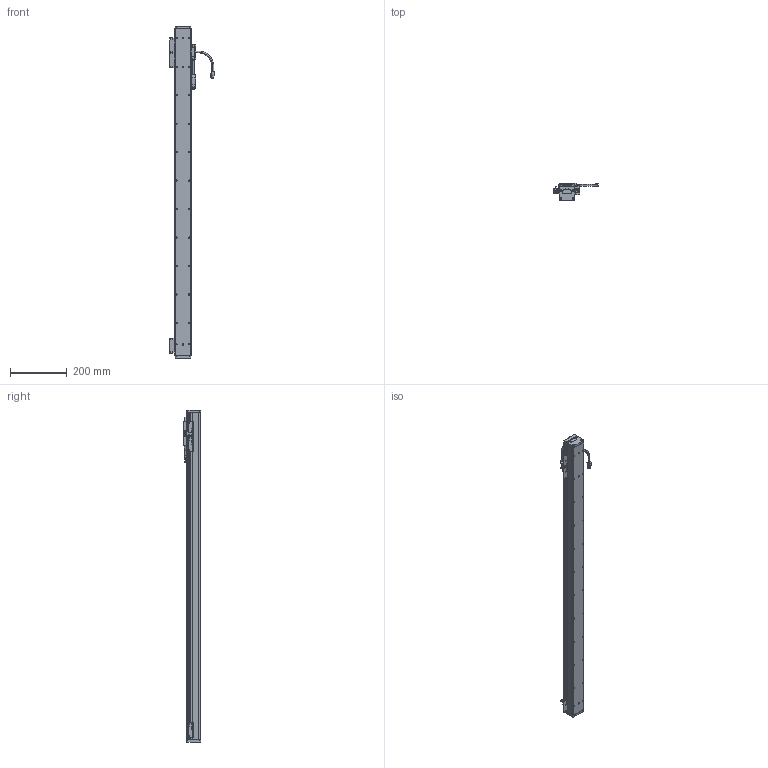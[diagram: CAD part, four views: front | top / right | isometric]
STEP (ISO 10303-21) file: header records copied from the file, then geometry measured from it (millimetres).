
FILE_DESCRIPTION(('Open CASCADE Model'),'2;1');
FILE_NAME('Open CASCADE Shape Model','2025-11-07T00:53:36',('Author'),( 'Open CASCADE'),'Open CASCADE STEP processor 7.6','Open CASCADE 7.6' ,'Unknown');
FILE_SCHEMA(('AUTOMOTIVE_DESIGN { 1 0 10303 214 1 1 1 1 }'));
Length unit declared in the file: millimetre
Products named in the file (25): Open CASCADE STEP translator 7.6 178; Open CASCADE STEP translator 7.6 178.1; Open CASCADE STEP translator 7.6 178.2; Open CASCADE STEP translator 7.6 178.3; Open CASCADE STEP translator 7.6 178.4; Open CASCADE STEP translator 7.6 178.5; Open CASCADE STEP translator 7.6 178.6; Open CASCADE STEP translator 7.6 178.7; Open CASCADE STEP translator 7.6 178.8; Open CASCADE STEP translator 7.6 178.9; Open CASCADE STEP translator 7.6 178.10; Open CASCADE STEP translator 7.6 178.11; Open CASCADE STEP translator 7.6 178.12; Open CASCADE STEP translator 7.6 178.13; Open CASCADE STEP translator 7.6 178.14; Open CASCADE STEP translator 7.6 178.14.1; Open CASCADE STEP translator 7.6 178.14.1.1; Open CASCADE STEP translator 7.6 178.14.1.2; Open CASCADE STEP translator 7.6 178.14.1.3; Open CASCADE STEP translator 7.6 178.14.1.4; Open CASCADE STEP translator 7.6 178.14.1.5; Open CASCADE STEP translator 7.6 178.15; Open CASCADE STEP translator 7.6 178.16; Open CASCADE STEP translator 7.6 178.17; Open CASCADE STEP translator 7.6 178.18
Assembly tree (24 placements, depth 4):
  Open CASCADE STEP translator 7.6 178
    Open CASCADE STEP translator 7.6 178.1
    Open CASCADE STEP translator 7.6 178.2
    Open CASCADE STEP translator 7.6 178.3
    Open CASCADE STEP translator 7.6 178.4
    Open CASCADE STEP translator 7.6 178.5
    Open CASCADE STEP translator 7.6 178.6
    Open CASCADE STEP translator 7.6 178.7
    Open CASCADE STEP translator 7.6 178.8
    Open CASCADE STEP translator 7.6 178.9
    Open CASCADE STEP translator 7.6 178.10
    Open CASCADE STEP translator 7.6 178.11
    Open CASCADE STEP translator 7.6 178.12
    Open CASCADE STEP translator 7.6 178.13
    Open CASCADE STEP translator 7.6 178.14
      Open CASCADE STEP translator 7.6 178.14.1
        Open CASCADE STEP translator 7.6 178.14.1.1
        Open CASCADE STEP translator 7.6 178.14.1.2
        Open CASCADE STEP translator 7.6 178.14.1.3
        Open CASCADE STEP translator 7.6 178.14.1.4
        Open CASCADE STEP translator 7.6 178.14.1.5
    Open CASCADE STEP translator 7.6 178.15
    Open CASCADE STEP translator 7.6 178.16
    Open CASCADE STEP translator 7.6 178.17
    Open CASCADE STEP translator 7.6 178.18
Bounding box: 158 x 60 x 1166 mm (x, y, z)
Volume: 3124822.4 mm3; surface area: 383888.4 mm2
Topology: 22 solids, 23 shells, 1929 faces, 4809 edges, 3048 vertices
Faces by surface type: plane 989, cylinder 728, bspline 112, cone 84, torus 16
Entity records: 146966 total; most frequent: CARTESIAN_POINT 52399, DIRECTION 17342, LINE 10567, VECTOR 10567, ORIENTED_EDGE 9484, PCURVE 9484, DEFINITIONAL_REPRESENTATION 9484, EDGE_CURVE 4742
